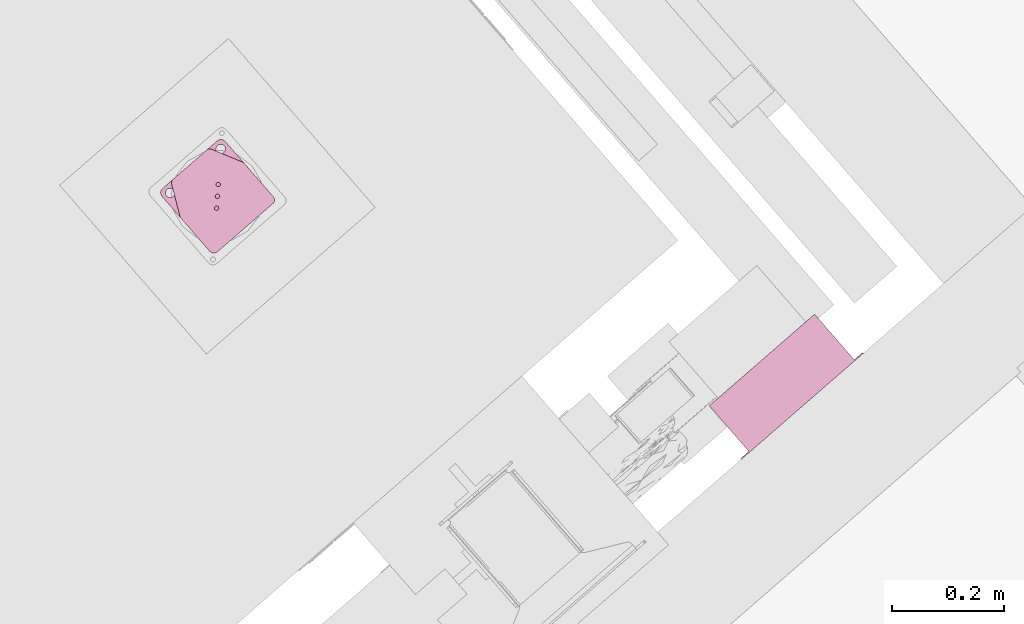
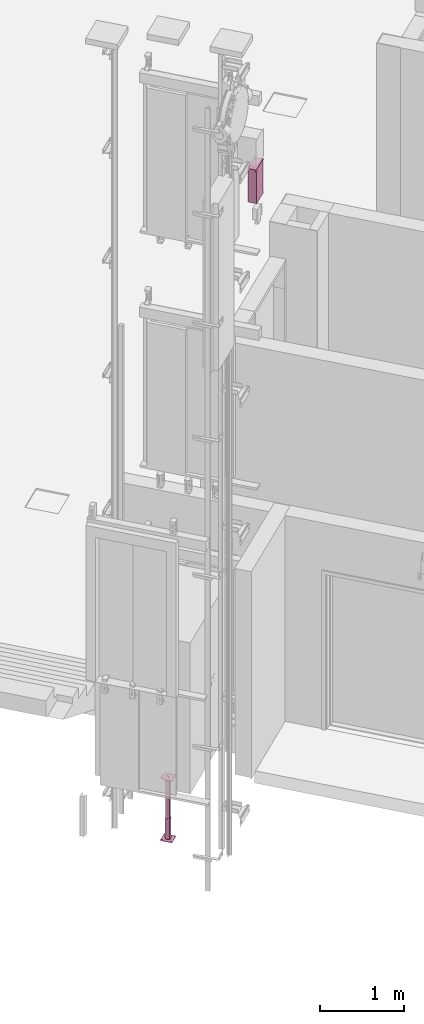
# One storey, part 123 of 124: 2 transport elements.
"""IFC2X3 building model written with IfcOpenShell, lengths in millimetres."""

import ifcopenshell
import ifcopenshell.guid

model = None  # the IFC model being written
_history = None  # IfcOwnerHistory: only IFC2X3 demands one
_inside = {}  # id of a spatial element -> (the spatial element, [elements in it])
_under = {}  # id of a project, library or spatial element -> (it, [spatial elements below it])
_declared = {}  # id of a project -> (the project, [libraries it declares])
_typed = {}  # id of a type object -> (the type object, [elements of that type])
_made_of = {}  # id of a material, layer set ... -> (it, [elements and type objects made of it])


def new_model(schema):
    """Start an empty IFC model of exactly this schema.

    Asked for "IFC4X3", IfcOpenShell would pick the latest addendum, in which some entities
    have other attributes; the version numbers below select the first issue.
    IFC2X3 requires an IfcOwnerHistory on every rooted entity: one is made here for all.
    """
    global model, _history
    if schema == "IFC4X3":
        model = ifcopenshell.file(schema_version=(4, 3, 0, 0))
    else:
        model = ifcopenshell.file(schema=schema)
    _inside.clear()
    _under.clear()
    _declared.clear()
    _typed.clear()
    _made_of.clear()
    _history = None
    if model.schema == "IFC2X3":
        org = make("IfcOrganization", Name="unknown")
        user = make(
            "IfcPersonAndOrganization",
            ThePerson=make("IfcPerson", FamilyName="unknown"),
            TheOrganization=org,
        )
        app = make(
            "IfcApplication",
            ApplicationDeveloper=org,
            Version="unknown",
            ApplicationFullName="unknown",
            ApplicationIdentifier="unknown",
        )
        _history = make(
            "IfcOwnerHistory",
            OwningUser=user,
            OwningApplication=app,
            ChangeAction="ADDED",
            CreationDate=0,
        )
    return model


def make(cls, **values):
    """One entity of the class cls with the attributes given. An attribute that is None is left unset."""
    return model.create_entity(
        cls, **{name: value for name, value in values.items() if value is not None}
    )


def entity(cls, *values):
    """Any entity or typed value of the class cls, its attributes in the order of the schema. None: left unset."""
    e = model.create_entity(cls)
    for i, value in enumerate(values):
        if value is not None:
            e[i] = value
    return e


def rooted(cls, **values):
    """An entity with a GlobalId (a new one), such as an element, a storey or a relation."""
    return make(cls, GlobalId=ifcopenshell.guid.new(), OwnerHistory=_history, **values)


def si_unit(unit_type, name, prefix=None):
    """IfcSIUnit, for example si_unit("LENGTHUNIT", "METRE", prefix="MILLI")."""
    return make("IfcSIUnit", UnitType=unit_type, Prefix=prefix, Name=name)


def converted_unit(unit_type, name, factor, base, dimensions=None, offset=None):
    """IfcConversionBasedUnit, such as the inch: factor (a typed value) times the base unit."""
    return make(
        "IfcConversionBasedUnit"
        if offset is None
        else "IfcConversionBasedUnitWithOffset",
        ConversionOffset=offset,
        Dimensions=None
        if dimensions is None
        else entity("IfcDimensionalExponents", *dimensions),
        UnitType=unit_type,
        Name=name,
        ConversionFactor=make(
            "IfcMeasureWithUnit", ValueComponent=factor, UnitComponent=base
        ),
    )


def derived_unit(unit_type, elements):
    """IfcDerivedUnit: a product of units, each with its exponent."""
    return make(
        "IfcDerivedUnit",
        Elements=[
            make("IfcDerivedUnitElement", Unit=unit, Exponent=power)
            for unit, power in elements
        ],
        UnitType=unit_type,
    )


def money_unit(currency):
    """IfcMonetaryUnit."""
    return make("IfcMonetaryUnit", Currency=currency)


def assignment(units):
    """IfcUnitAssignment: the units of a project."""
    return None if units is None else make("IfcUnitAssignment", Units=units)


def point(xyz):
    """IfcCartesianPoint."""
    return None if xyz is None else make("IfcCartesianPoint", Coordinates=xyz)


def direction(xyz):
    """IfcDirection."""
    return None if xyz is None else make("IfcDirection", DirectionRatios=xyz)


def frame(location, z_axis=None, x_axis=None):
    """IfcAxis2Placement3D, a coordinate frame: its origin and axes. An axis left out is left unset."""
    return make(
        "IfcAxis2Placement3D",
        Location=point(location),
        Axis=direction(z_axis),
        RefDirection=direction(x_axis),
    )


def origin_with_axes():
    """The frame at (0, 0, 0) with the z axis (0, 0, 1) and the x axis (1, 0, 0) written out."""
    return frame((0.0, 0.0, 0.0), z_axis=(0.0, 0.0, 1.0), x_axis=(1.0, 0.0, 0.0))


def place(relative_to, where):
    """IfcLocalPlacement: puts the frame where relative to a parent placement (None: the world)."""
    return make(
        "IfcLocalPlacement", PlacementRelTo=relative_to, RelativePlacement=where
    )


def context(
    kind, dimensions, precision=None, world=None, true_north=None, identifier=None
):
    """IfcGeometricRepresentationContext, for example the 3D "Model" context."""
    return make(
        "IfcGeometricRepresentationContext",
        ContextIdentifier=identifier,
        ContextType=kind,
        CoordinateSpaceDimension=dimensions,
        Precision=precision,
        WorldCoordinateSystem=world,
        TrueNorth=true_north,
    )


def subcontext(parent, identifier, kind, view, scale=None):
    """IfcGeometricRepresentationSubContext, for example "Body" below "Model"."""
    return make(
        "IfcGeometricRepresentationSubContext",
        ContextIdentifier=identifier,
        ContextType=kind,
        ParentContext=parent,
        TargetScale=scale,
        TargetView=view,
    )


def project(units=None, contexts=None):
    """IfcProject with its units and contexts."""
    return rooted(
        "IfcProject",
        Name="project",
        RepresentationContexts=contexts,
        UnitsInContext=assignment(units),
    )


def spatial(cls, under=None, at=None, **own):
    """A site, building, storey or space (cls), placed at a placement, below another one or the project."""
    s = rooted(cls, ObjectPlacement=at, **own)
    if under is not None:
        _under.setdefault(under.id(), (under, []))[1].append(s)
    return s


def faces_of(points, faces, orient=None, outer=None):
    """IfcFace entities. A face is a list of loops; a loop is a list of indices into points, from 0.

    orient and outer hold one flag for each loop. By default every Orientation is true, the
    first loop of a face is its IfcFaceOuterBound and the others are IfcFaceBound.
    """
    made = []
    for i, loops in enumerate(faces):
        bounds = []
        for j, loop in enumerate(loops):
            is_outer = j == 0 if outer is None else outer[i][j]
            bounds.append(
                make(
                    "IfcFaceOuterBound" if is_outer else "IfcFaceBound",
                    Bound=make("IfcPolyLoop", Polygon=[points[k] for k in loop]),
                    Orientation=True if orient is None else orient[i][j],
                )
            )
        made.append(make("IfcFace", Bounds=bounds))
    return made


def faceted_brep(points, faces, orient=None, outer=None, voids=None):
    """IfcFacetedBrep: a solid bounded by flat faces; with voids (closed shells), ...WithVoids."""
    shared = [point(p) for p in points]
    hull = make("IfcClosedShell", CfsFaces=faces_of(shared, faces, orient, outer))
    if voids is None:
        return make("IfcFacetedBrep", Outer=hull)
    return make(
        "IfcFacetedBrepWithVoids",
        Outer=hull,
        Voids=[
            make(cls, CfsFaces=faces_of(shared, fs, o, b)) for cls, fs, o, b in voids
        ],
    )


def shape(context_of_items, identifier, shape_type, items):
    """IfcShapeRepresentation: the items that make up one representation, for example the "Body"."""
    return make(
        "IfcShapeRepresentation",
        ContextOfItems=context_of_items,
        RepresentationIdentifier=identifier,
        RepresentationType=shape_type,
        Items=items,
    )


def material(Name=None, Category=None):
    """IfcMaterial."""
    return make("IfcMaterial", Name=Name, Category=Category)


def material_list(materials):
    """IfcMaterialList."""
    return make("IfcMaterialList", Materials=materials)


def made_of(thing, what):
    """Note that an element or type object is made of a material, layer set ...; save() writes the relation."""
    if what is not None:
        _made_of.setdefault(what.id(), (what, []))[1].append(thing)
    return thing


def type_object(cls, material=None, **own):
    """A type object (cls), such as IfcWallType, which elements share."""
    return made_of(rooted(cls, **own), material)


def element(
    cls,
    number,
    at=None,
    inside=None,
    cuts=None,
    type_object=None,
    material=None,
    context=None,
    identifier="Body",
    shape_type=None,
    held_by="IfcProductDefinitionShape",
    body=None,
    shapes=None,
    **own,
):
    """One element of the class cls, such as IfcWall. Its Tag is "e" and its number.

    at: its placement. inside: the storey or other place that contains it. cuts: it is an
    opening in that element (IfcRelVoidsElement). A single representation is given by context,
    identifier, shape_type and body (its items); several are given by shapes. held_by: the class
    of the entity that holds the representations. save() writes the other relations.
    """
    e = rooted(cls, Tag="e%d" % number, ObjectPlacement=at, **own)
    if body is not None:
        shapes = [shape(context, identifier, shape_type, body)]
    if shapes is not None:
        e.Representation = make(held_by, Representations=shapes)
    if inside is not None:
        _inside.setdefault(inside.id(), (inside, []))[1].append(e)
    if cuts is not None:
        rooted(
            "IfcRelVoidsElement", RelatingBuildingElement=cuts, RelatedOpeningElement=e
        )
    if type_object is not None:
        _typed.setdefault(type_object.id(), (type_object, []))[1].append(e)
    return made_of(e, material)


def aggregate(whole, parts):
    """IfcRelAggregates: a whole, such as a stair, and the parts it consists of."""
    return rooted("IfcRelAggregates", RelatingObject=whole, RelatedObjects=parts)


def save(model, path):
    """Write the relations noted so far, then the file.

    IfcRelAggregates (storeys below a building ...), IfcRelContainedInSpatialStructure (elements
    in a storey), IfcRelDefinesByType, IfcRelAssociatesMaterial and IfcRelDeclares: one each for
    every whole, place, type object, material and project.
    """
    for whole, parts in _under.values():
        aggregate(whole, parts)
    for where, things in _inside.values():
        rooted(
            "IfcRelContainedInSpatialStructure",
            RelatedElements=things,
            RelatingStructure=where,
        )
    for kind, things in _typed.values():
        rooted("IfcRelDefinesByType", RelatedObjects=things, RelatingType=kind)
    for what, things in _made_of.values():
        rooted("IfcRelAssociatesMaterial", RelatedObjects=things, RelatingMaterial=what)
    for by, libraries in _declared.values():
        rooted("IfcRelDeclares", RelatingContext=by, RelatedDefinitions=libraries)
    model.write(path)


model = new_model("IFC2X3")

# Units and contexts
model_context = context("Model", 3, precision=1e-05, world=origin_with_axes(), true_north=direction((0.0, 1.0)))
body_context = subcontext(model_context, "Body", "Model", "MODEL_VIEW")
ifc_project = project(units=[si_unit("LENGTHUNIT", "METRE", prefix="MILLI"), si_unit("AREAUNIT", "SQUARE_METRE"), si_unit("VOLUMEUNIT", "CUBIC_METRE"), converted_unit("PLANEANGLEUNIT", "DEGREE", entity("IfcPlaneAngleMeasure", 0.0174532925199), si_unit("PLANEANGLEUNIT", "RADIAN"), dimensions=[0, 0, 0, 0, 0, 0, 0]), si_unit("SOLIDANGLEUNIT", "STERADIAN"), money_unit("EUR"), converted_unit("TIMEUNIT", "Year", entity("IfcTimeMeasure", 31556926.0), si_unit("TIMEUNIT", "SECOND"), dimensions=[0, 0, 1, 0, 0, 0, 0]), si_unit("MASSUNIT", "GRAM", prefix="KILO"), si_unit("THERMODYNAMICTEMPERATUREUNIT", "DEGREE_CELSIUS"), si_unit("LUMINOUSINTENSITYUNIT", "LUMEN"), si_unit("ENERGYUNIT", "JOULE", prefix="MEGA"), derived_unit("THERMALCONDUCTANCEUNIT", [(si_unit("POWERUNIT", "WATT"), 1), (si_unit("LENGTHUNIT", "METRE"), -1), (si_unit("THERMODYNAMICTEMPERATUREUNIT", "KELVIN"), -1)]), derived_unit("SPECIFICHEATCAPACITYUNIT", [(si_unit("ENERGYUNIT", "JOULE"), 1), (si_unit("MASSUNIT", "GRAM", prefix="KILO"), -1), (si_unit("THERMODYNAMICTEMPERATUREUNIT", "KELVIN"), -1)]), derived_unit("MASSDENSITYUNIT", [(si_unit("MASSUNIT", "GRAM", prefix="KILO"), 1), (si_unit("VOLUMEUNIT", "CUBIC_METRE"), -1)])], contexts=[model_context])

# Site, building, storey
site_placement = place(None, origin_with_axes())
site = spatial("IfcSite", under=ifc_project, at=site_placement, Name="Site", CompositionType="ELEMENT")
building_placement = place(site_placement, origin_with_axes())
building = spatial("IfcBuilding", under=site, at=building_placement, Name="Building", CompositionType="ELEMENT")
storey_placement = place(building_placement, frame((0.0, 0.0, -1615.0), z_axis=(0.0, 0.0, 1.0), x_axis=(1.0, 0.0, 0.0)))
storey = spatial("IfcBuildingStorey", under=building, at=storey_placement, Name="0  korrus", CompositionType="ELEMENT", Elevation=-1615.0)

# Transport elements
ifc_material = material(Name="IFC Building Material")
ifc_material_list_1 = material_list([ifc_material, ifc_material, ifc_material, ifc_material])
transport_element_type_1 = type_object("IfcTransportElementType", Name="KONE_Buffer_Extension_Single_Pillar_KM841600_CAR:KONE_Buffer_Extension_Single_Pillar_KM841600", PredefinedType="NOTDEFINED")
transport_element_1_placement = place(storey_placement, frame((147219.057432, 78456.6594632, -1400.0), z_axis=(0.0, 0.0, 1.0), x_axis=(-0.656059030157, 0.754709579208, 0.0)))
element("IfcTransportElement", 1, at=transport_element_1_placement, inside=storey, type_object=transport_element_type_1, material=ifc_material_list_1, Name="KONE_Buffer_Extension_Single_Pillar_KM841600_CAR:KONE_Buffer_Extension_Single_Pillar_KM841600", ObjectType="KONE_Buffer_Extension_Single_Pillar_KM841600", CapacityByNumber=0.0, CapacityByWeight=0.0, OperationType="ELEVATOR", context=body_context, shape_type="Brep", body=[
    faceted_brep([(91.5952722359, 151.595272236, 892.0), (11.5952722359, 151.595272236, 892.0), (11.5952722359, 151.595272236, 897.0), (91.5952722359, 151.595272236, 897.0), (147.172981, 123.806417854, 892.0), (149.513263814, 122.034064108, 892.0), (151.056637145, 119.5368336, 892.0), (151.595272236, 116.651000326, 892.0), (151.595272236, 36.5395441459, 892.0), (151.056637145, 33.6537108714, 892.0), (149.513263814, 31.1564803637, 892.0), (147.172981, 29.3841266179, 892.0), (91.5952722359, 1.59527223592, 892.0), (9.59527223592, 1.59527223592, 892.0), (6.533804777, 2.20423597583, 892.0), (3.93841798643, 3.93841798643, 892.0), (2.20423597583, 6.533804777, 892.0), (1.59527223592, 9.59527223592, 892.0), (1.59527223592, 141.595272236, 892.0), (2.35647691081, 145.42210656, 892.0), (4.52420442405, 148.666340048, 892.0), (7.76843791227, 150.834067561, 892.0), (65.5952722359, 91.5952722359, 892.0), (65.290790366, 93.1260059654, 892.0), (64.4236993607, 94.4236993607, 892.0), (63.1260059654, 95.290790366, 892.0), (61.5952722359, 95.5952722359, 892.0), (60.0645385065, 95.290790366, 892.0), (58.7668451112, 94.4236993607, 892.0), (57.8997541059, 93.1260059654, 892.0), (57.5952722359, 91.5952722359, 892.0), (57.8997541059, 90.0645385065, 892.0), (58.7668451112, 88.7668451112, 892.0), (60.0645385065, 87.8997541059, 892.0), (61.5952722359, 87.5952722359, 892.0), (63.1260059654, 87.8997541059, 892.0), (64.4236993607, 88.7668451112, 892.0), (65.290790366, 90.0645385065, 892.0), (80.5952722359, 76.5952722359, 892.0), (80.290790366, 78.1260059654, 892.0), (79.4236993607, 79.4236993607, 892.0), (78.1260059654, 80.290790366, 892.0), (76.5952722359, 80.5952722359, 892.0), (75.0645385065, 80.290790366, 892.0), (73.7668451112, 79.4236993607, 892.0), (72.8997541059, 78.1260059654, 892.0), (72.5952722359, 76.5952722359, 892.0), (72.8997541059, 75.0645385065, 892.0), (73.7668451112, 73.7668451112, 892.0), (75.0645385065, 72.8997541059, 892.0), (76.5952722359, 72.5952722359, 892.0), (78.1260059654, 72.8997541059, 892.0), (79.4236993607, 73.7668451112, 892.0), (80.290790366, 75.0645385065, 892.0), (95.5952722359, 61.5952722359, 892.0), (95.290790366, 63.1260059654, 892.0), (94.4236993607, 64.4236993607, 892.0), (93.1260059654, 65.290790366, 892.0), (91.5952722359, 65.5952722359, 892.0), (90.0645385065, 65.290790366, 892.0), (88.7668451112, 64.4236993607, 892.0), (87.8997541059, 63.1260059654, 892.0), (87.5952722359, 61.5952722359, 892.0), (87.8997541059, 60.0645385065, 892.0), (88.7668451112, 58.7668451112, 892.0), (90.0645385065, 57.8997541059, 892.0), (91.5952722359, 57.5952722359, 892.0), (93.1260059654, 57.8997541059, 892.0), (94.4236993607, 58.7668451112, 892.0), (95.290790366, 60.0645385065, 892.0), (7.76843791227, 150.834067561, 897.0), (4.52420442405, 148.666340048, 897.0), (2.35647691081, 145.42210656, 897.0), (1.59527223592, 141.595272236, 897.0), (1.59527223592, 9.59527223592, 897.0), (2.20423597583, 6.533804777, 897.0), (3.93841798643, 3.93841798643, 897.0), (6.533804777, 2.20423597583, 897.0), (9.59527223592, 1.59527223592, 897.0), (91.5952722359, 1.59527223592, 897.0), (147.172981, 29.3841266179, 897.0), (149.513263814, 31.1564803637, 897.0), (151.056637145, 33.6537108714, 897.0), (151.595272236, 36.5395441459, 897.0), (151.595272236, 116.651000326, 897.0), (151.056637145, 119.5368336, 897.0), (149.513263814, 122.034064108, 897.0), (147.172981, 123.806417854, 897.0), (65.5952722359, 91.5952722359, 897.0), (65.290790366, 90.0645385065, 897.0), (64.4236993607, 88.7668451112, 897.0), (63.1260059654, 87.8997541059, 897.0), (61.5952722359, 87.5952722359, 897.0), (60.0645385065, 87.8997541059, 897.0), (58.7668451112, 88.7668451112, 897.0), (57.8997541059, 90.0645385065, 897.0), (57.5952722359, 91.5952722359, 897.0), (57.8997541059, 93.1260059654, 897.0), (58.7668451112, 94.4236993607, 897.0), (60.0645385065, 95.290790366, 897.0), (61.5952722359, 95.5952722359, 897.0), (63.1260059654, 95.290790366, 897.0), (64.4236993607, 94.4236993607, 897.0), (65.290790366, 93.1260059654, 897.0), (80.5952722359, 76.5952722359, 897.0), (80.290790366, 75.0645385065, 897.0), (79.4236993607, 73.7668451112, 897.0), (78.1260059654, 72.8997541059, 897.0), (76.5952722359, 72.5952722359, 897.0), (75.0645385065, 72.8997541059, 897.0), (73.7668451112, 73.7668451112, 897.0), (72.8997541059, 75.0645385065, 897.0), (72.5952722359, 76.5952722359, 897.0), (72.8997541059, 78.1260059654, 897.0), (73.7668451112, 79.4236993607, 897.0), (75.0645385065, 80.290790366, 897.0), (76.5952722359, 80.5952722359, 897.0), (78.1260059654, 80.290790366, 897.0), (79.4236993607, 79.4236993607, 897.0), (80.290790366, 78.1260059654, 897.0), (95.5952722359, 61.5952722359, 897.0), (95.290790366, 60.0645385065, 897.0), (94.4236993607, 58.7668451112, 897.0), (93.1260059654, 57.8997541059, 897.0), (91.5952722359, 57.5952722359, 897.0), (90.0645385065, 57.8997541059, 897.0), (88.7668451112, 58.7668451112, 897.0), (87.8997541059, 60.0645385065, 897.0), (87.5952722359, 61.5952722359, 897.0), (87.8997541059, 63.1260059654, 897.0), (88.7668451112, 64.4236993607, 897.0), (90.0645385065, 65.290790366, 897.0), (91.5952722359, 65.5952722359, 897.0), (93.1260059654, 65.290790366, 897.0), (94.4236993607, 64.4236993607, 897.0), (95.290790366, 63.1260059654, 897.0)], [[[0, 1, 2, 3]], [[0, 4, 5, 6, 7, 8, 9, 10, 11, 12, 13, 14, 15, 16, 17, 18, 19, 20, 21, 1], [22, 23, 24, 25, 26, 27, 28, 29, 30, 31, 32, 33, 34, 35, 36, 37], [38, 39, 40, 41, 42, 43, 44, 45, 46, 47, 48, 49, 50, 51, 52, 53], [54, 55, 56, 57, 58, 59, 60, 61, 62, 63, 64, 65, 66, 67, 68, 69]], [[1, 21, 70, 2]], [[3, 2, 70, 71, 72, 73, 74, 75, 76, 77, 78, 79, 80, 81, 82, 83, 84, 85, 86, 87], [88, 89, 90, 91, 92, 93, 94, 95, 96, 97, 98, 99, 100, 101, 102, 103], [104, 105, 106, 107, 108, 109, 110, 111, 112, 113, 114, 115, 116, 117, 118, 119], [120, 121, 122, 123, 124, 125, 126, 127, 128, 129, 130, 131, 132, 133, 134, 135]], [[4, 0, 3, 87]], [[5, 4, 87, 86]], [[6, 5, 86, 85]], [[7, 6, 85, 84]], [[8, 7, 84, 83]], [[9, 8, 83, 82]], [[10, 9, 82, 81]], [[11, 10, 81, 80]], [[12, 11, 80, 79]], [[13, 12, 79, 78]], [[14, 13, 78, 77]], [[15, 14, 77, 76]], [[16, 15, 76, 75]], [[17, 16, 75, 74]], [[18, 17, 74, 73]], [[19, 18, 73, 72]], [[20, 19, 72, 71]], [[21, 20, 71, 70]], [[23, 22, 88, 103]], [[24, 23, 103, 102]], [[25, 24, 102, 101]], [[26, 25, 101, 100]], [[27, 26, 100, 99]], [[28, 27, 99, 98]], [[29, 28, 98, 97]], [[30, 29, 97, 96]], [[31, 30, 96, 95]], [[32, 31, 95, 94]], [[33, 32, 94, 93]], [[34, 33, 93, 92]], [[35, 34, 92, 91]], [[36, 35, 91, 90]], [[37, 36, 90, 89]], [[22, 37, 89, 88]], [[39, 38, 104, 119]], [[40, 39, 119, 118]], [[41, 40, 118, 117]], [[42, 41, 117, 116]], [[43, 42, 116, 115]], [[44, 43, 115, 114]], [[45, 44, 114, 113]], [[46, 45, 113, 112]], [[47, 46, 112, 111]], [[48, 47, 111, 110]], [[49, 48, 110, 109]], [[50, 49, 109, 108]], [[51, 50, 108, 107]], [[52, 51, 107, 106]], [[53, 52, 106, 105]], [[38, 53, 105, 104]], [[55, 54, 120, 135]], [[56, 55, 135, 134]], [[57, 56, 134, 133]], [[58, 57, 133, 132]], [[59, 58, 132, 131]], [[60, 59, 131, 130]], [[61, 60, 130, 129]], [[62, 61, 129, 128]], [[63, 62, 128, 127]], [[64, 63, 127, 126]], [[65, 64, 126, 125]], [[66, 65, 125, 124]], [[67, 66, 124, 123]], [[68, 67, 123, 122]], [[69, 68, 122, 121]], [[54, 69, 121, 120]]]),
    faceted_brep([(99.5952722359, 101.595272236, 305.0), (53.5952722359, 101.595272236, 305.0), (53.5952722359, 101.595272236, 892.0), (99.5952722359, 101.595272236, 892.0), (100.360639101, 101.443031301, 305.0), (101.009485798, 101.009485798, 305.0), (101.443031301, 100.360639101, 305.0), (101.595272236, 99.5952722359, 305.0), (101.595272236, 53.5952722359, 305.0), (101.443031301, 52.8299053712, 305.0), (101.009485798, 52.1810586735, 305.0), (100.360639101, 51.7475131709, 305.0), (99.5952722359, 51.5952722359, 305.0), (53.5952722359, 51.5952722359, 305.0), (52.8299053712, 51.7475131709, 305.0), (52.1810586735, 52.1810586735, 305.0), (51.7475131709, 52.8299053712, 305.0), (51.5952722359, 53.5952722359, 305.0), (51.5952722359, 99.5952722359, 305.0), (51.7475131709, 100.360639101, 305.0), (52.1810586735, 101.009485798, 305.0), (52.8299053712, 101.443031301, 305.0), (95.5952722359, 97.5952722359, 305.0), (57.5952722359, 97.5952722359, 305.0), (56.8299053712, 97.4430313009, 305.0), (56.1810586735, 97.0094857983, 305.0), (55.7475131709, 96.3606391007, 305.0), (55.5952722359, 95.5952722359, 305.0), (55.5952722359, 57.5952722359, 305.0), (55.7475131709, 56.8299053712, 305.0), (56.1810586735, 56.1810586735, 305.0), (56.8299053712, 55.7475131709, 305.0), (57.5952722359, 55.5952722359, 305.0), (95.5952722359, 55.5952722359, 305.0), (96.3606391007, 55.7475131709, 305.0), (97.0094857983, 56.1810586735, 305.0), (97.4430313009, 56.8299053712, 305.0), (97.5952722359, 57.5952722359, 305.0), (97.5952722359, 95.5952722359, 305.0), (97.4430313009, 96.3606391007, 305.0), (97.0094857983, 97.0094857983, 305.0), (96.3606391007, 97.4430313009, 305.0), (52.8299053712, 101.443031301, 892.0), (52.1810586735, 101.009485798, 892.0), (51.7475131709, 100.360639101, 892.0), (51.5952722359, 99.5952722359, 892.0), (51.5952722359, 53.5952722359, 892.0), (51.7475131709, 52.8299053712, 892.0), (52.1810586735, 52.1810586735, 892.0), (52.8299053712, 51.7475131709, 892.0), (53.5952722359, 51.5952722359, 892.0), (99.5952722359, 51.5952722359, 892.0), (100.360639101, 51.7475131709, 892.0), (101.009485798, 52.1810586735, 892.0), (101.443031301, 52.8299053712, 892.0), (101.595272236, 53.5952722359, 892.0), (101.595272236, 99.5952722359, 892.0), (101.443031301, 100.360639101, 892.0), (101.009485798, 101.009485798, 892.0), (100.360639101, 101.443031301, 892.0), (95.5952722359, 97.5952722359, 892.0), (96.3606391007, 97.4430313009, 892.0), (97.0094857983, 97.0094857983, 892.0), (97.4430313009, 96.3606391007, 892.0), (97.5952722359, 95.5952722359, 892.0), (97.5952722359, 57.5952722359, 892.0), (97.4430313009, 56.8299053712, 892.0), (97.0094857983, 56.1810586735, 892.0), (96.3606391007, 55.7475131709, 892.0), (95.5952722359, 55.5952722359, 892.0), (57.5952722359, 55.5952722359, 892.0), (56.8299053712, 55.7475131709, 892.0), (56.1810586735, 56.1810586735, 892.0), (55.7475131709, 56.8299053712, 892.0), (55.5952722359, 57.5952722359, 892.0), (55.5952722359, 95.5952722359, 892.0), (55.7475131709, 96.3606391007, 892.0), (56.1810586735, 97.0094857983, 892.0), (56.8299053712, 97.4430313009, 892.0), (57.5952722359, 97.5952722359, 892.0)], [[[0, 1, 2, 3]], [[0, 4, 5, 6, 7, 8, 9, 10, 11, 12, 13, 14, 15, 16, 17, 18, 19, 20, 21, 1], [22, 23, 24, 25, 26, 27, 28, 29, 30, 31, 32, 33, 34, 35, 36, 37, 38, 39, 40, 41]], [[1, 21, 42, 2]], [[3, 2, 42, 43, 44, 45, 46, 47, 48, 49, 50, 51, 52, 53, 54, 55, 56, 57, 58, 59], [60, 61, 62, 63, 64, 65, 66, 67, 68, 69, 70, 71, 72, 73, 74, 75, 76, 77, 78, 79]], [[4, 0, 3, 59]], [[5, 4, 59, 58]], [[6, 5, 58, 57]], [[7, 6, 57, 56]], [[8, 7, 56, 55]], [[9, 8, 55, 54]], [[10, 9, 54, 53]], [[11, 10, 53, 52]], [[12, 11, 52, 51]], [[13, 12, 51, 50]], [[14, 13, 50, 49]], [[15, 14, 49, 48]], [[16, 15, 48, 47]], [[17, 16, 47, 46]], [[18, 17, 46, 45]], [[19, 18, 45, 44]], [[20, 19, 44, 43]], [[21, 20, 43, 42]], [[23, 22, 60, 79]], [[24, 23, 79, 78]], [[25, 24, 78, 77]], [[26, 25, 77, 76]], [[27, 26, 76, 75]], [[28, 27, 75, 74]], [[29, 28, 74, 73]], [[30, 29, 73, 72]], [[31, 30, 72, 71]], [[32, 31, 71, 70]], [[33, 32, 70, 69]], [[34, 33, 69, 68]], [[35, 34, 68, 67]], [[36, 35, 67, 66]], [[37, 36, 66, 65]], [[38, 37, 65, 64]], [[39, 38, 64, 63]], [[40, 39, 63, 62]], [[41, 40, 62, 61]], [[22, 41, 61, 60]]]),
    faceted_brep([(101.595272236, 106.595272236, 5.0), (51.5952722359, 106.595272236, 5.0), (51.5952722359, 106.595272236, 305.0), (101.595272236, 106.595272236, 305.0), (103.508689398, 106.214669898, 5.0), (105.130806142, 105.130806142, 5.0), (106.214669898, 103.508689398, 5.0), (106.595272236, 101.595272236, 5.0), (106.595272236, 51.5952722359, 5.0), (106.214669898, 49.6818550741, 5.0), (105.130806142, 48.05973833, 5.0), (103.508689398, 46.9758745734, 5.0), (101.595272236, 46.5952722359, 5.0), (51.5952722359, 46.5952722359, 5.0), (49.6818550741, 46.9758745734, 5.0), (48.05973833, 48.05973833, 5.0), (46.9758745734, 49.6818550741, 5.0), (46.5952722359, 51.5952722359, 5.0), (46.5952722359, 101.595272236, 5.0), (46.9758745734, 103.508689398, 5.0), (48.05973833, 105.130806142, 5.0), (49.6818550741, 106.214669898, 5.0), (97.5952722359, 102.595272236, 5.0), (55.5952722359, 102.595272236, 5.0), (53.6818550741, 102.214669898, 5.0), (52.05973833, 101.130806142, 5.0), (50.9758745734, 99.5086893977, 5.0), (50.5952722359, 97.5952722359, 5.0), (50.5952722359, 55.5952722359, 5.0), (50.9758745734, 53.6818550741, 5.0), (52.05973833, 52.05973833, 5.0), (53.6818550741, 50.9758745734, 5.0), (55.5952722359, 50.5952722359, 5.0), (97.5952722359, 50.5952722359, 5.0), (99.5086893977, 50.9758745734, 5.0), (101.130806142, 52.05973833, 5.0), (102.214669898, 53.6818550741, 5.0), (102.595272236, 55.5952722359, 5.0), (102.595272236, 97.5952722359, 5.0), (102.214669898, 99.5086893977, 5.0), (101.130806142, 101.130806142, 5.0), (99.5086893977, 102.214669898, 5.0), (49.6818550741, 106.214669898, 305.0), (48.05973833, 105.130806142, 305.0), (46.9758745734, 103.508689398, 305.0), (46.5952722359, 101.595272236, 305.0), (46.5952722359, 51.5952722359, 305.0), (46.9758745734, 49.6818550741, 305.0), (48.05973833, 48.05973833, 305.0), (49.6818550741, 46.9758745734, 305.0), (51.5952722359, 46.5952722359, 305.0), (101.595272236, 46.5952722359, 305.0), (103.508689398, 46.9758745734, 305.0), (105.130806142, 48.05973833, 305.0), (106.214669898, 49.6818550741, 305.0), (106.595272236, 51.5952722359, 305.0), (106.595272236, 101.595272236, 305.0), (106.214669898, 103.508689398, 305.0), (105.130806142, 105.130806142, 305.0), (103.508689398, 106.214669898, 305.0), (97.5952722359, 102.595272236, 305.0), (99.5086893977, 102.214669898, 305.0), (101.130806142, 101.130806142, 305.0), (102.214669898, 99.5086893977, 305.0), (102.595272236, 97.5952722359, 305.0), (102.595272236, 55.5952722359, 305.0), (102.214669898, 53.6818550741, 305.0), (101.130806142, 52.05973833, 305.0), (99.5086893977, 50.9758745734, 305.0), (97.5952722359, 50.5952722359, 305.0), (55.5952722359, 50.5952722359, 305.0), (53.6818550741, 50.9758745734, 305.0), (52.05973833, 52.05973833, 305.0), (50.9758745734, 53.6818550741, 305.0), (50.5952722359, 55.5952722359, 305.0), (50.5952722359, 97.5952722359, 305.0), (50.9758745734, 99.5086893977, 305.0), (52.05973833, 101.130806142, 305.0), (53.6818550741, 102.214669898, 305.0), (55.5952722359, 102.595272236, 305.0)], [[[0, 1, 2, 3]], [[0, 4, 5, 6, 7, 8, 9, 10, 11, 12, 13, 14, 15, 16, 17, 18, 19, 20, 21, 1], [22, 23, 24, 25, 26, 27, 28, 29, 30, 31, 32, 33, 34, 35, 36, 37, 38, 39, 40, 41]], [[1, 21, 42, 2]], [[3, 2, 42, 43, 44, 45, 46, 47, 48, 49, 50, 51, 52, 53, 54, 55, 56, 57, 58, 59], [60, 61, 62, 63, 64, 65, 66, 67, 68, 69, 70, 71, 72, 73, 74, 75, 76, 77, 78, 79]], [[4, 0, 3, 59]], [[5, 4, 59, 58]], [[6, 5, 58, 57]], [[7, 6, 57, 56]], [[8, 7, 56, 55]], [[9, 8, 55, 54]], [[10, 9, 54, 53]], [[11, 10, 53, 52]], [[12, 11, 52, 51]], [[13, 12, 51, 50]], [[14, 13, 50, 49]], [[15, 14, 49, 48]], [[16, 15, 48, 47]], [[17, 16, 47, 46]], [[18, 17, 46, 45]], [[19, 18, 45, 44]], [[20, 19, 44, 43]], [[21, 20, 43, 42]], [[23, 22, 60, 79]], [[24, 23, 79, 78]], [[25, 24, 78, 77]], [[26, 25, 77, 76]], [[27, 26, 76, 75]], [[28, 27, 75, 74]], [[29, 28, 74, 73]], [[30, 29, 73, 72]], [[31, 30, 72, 71]], [[32, 31, 71, 70]], [[33, 32, 70, 69]], [[34, 33, 69, 68]], [[35, 34, 68, 67]], [[36, 35, 67, 66]], [[37, 36, 66, 65]], [[38, 37, 65, 64]], [[39, 38, 64, 63]], [[40, 39, 63, 62]], [[41, 40, 62, 61]], [[22, 41, 61, 60]]]),
    faceted_brep([(141.595272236, 151.595272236, 0.0), (11.5952722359, 151.595272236, 0.0), (11.5952722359, 151.595272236, 5.0), (141.595272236, 151.595272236, 5.0), (145.42210656, 150.834067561, 0.0), (148.666340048, 148.666340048, 0.0), (150.834067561, 145.42210656, 0.0), (151.595272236, 141.595272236, 0.0), (151.595272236, 11.5952722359, 0.0), (150.834067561, 7.76843791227, 0.0), (148.666340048, 4.52420442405, 0.0), (145.42210656, 2.35647691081, 0.0), (141.595272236, 1.59527223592, 0.0), (11.5952722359, 1.59527223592, 0.0), (7.76843791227, 2.35647691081, 0.0), (4.52420442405, 4.52420442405, 0.0), (2.35647691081, 7.76843791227, 0.0), (1.59527223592, 11.5952722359, 0.0), (1.59527223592, 141.595272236, 0.0), (2.35647691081, 145.42210656, 0.0), (4.52420442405, 148.666340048, 0.0), (7.76843791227, 150.834067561, 0.0), (25.0952722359, 16.5952722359, 0.0), (24.4482482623, 19.848081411, 0.0), (22.605679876, 22.605679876, 0.0), (19.848081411, 24.4482482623, 0.0), (16.5952722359, 25.0952722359, 0.0), (13.3424630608, 24.4482482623, 0.0), (10.5848645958, 22.605679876, 0.0), (8.74229620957, 19.848081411, 0.0), (8.09527223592, 16.5952722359, 0.0), (8.74229620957, 13.3424630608, 0.0), (10.5848645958, 10.5848645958, 0.0), (13.3424630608, 8.74229620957, 0.0), (16.5952722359, 8.09527223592, 0.0), (19.848081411, 8.74229620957, 0.0), (22.605679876, 10.5848645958, 0.0), (24.4482482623, 13.3424630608, 0.0), (145.095272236, 16.5952722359, 0.0), (144.448248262, 19.848081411, 0.0), (142.605679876, 22.605679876, 0.0), (139.848081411, 24.4482482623, 0.0), (136.595272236, 25.0952722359, 0.0), (133.342463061, 24.4482482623, 0.0), (130.584864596, 22.605679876, 0.0), (128.74229621, 19.848081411, 0.0), (128.095272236, 16.5952722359, 0.0), (128.74229621, 13.3424630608, 0.0), (130.584864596, 10.5848645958, 0.0), (133.342463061, 8.74229620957, 0.0), (136.595272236, 8.09527223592, 0.0), (139.848081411, 8.74229620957, 0.0), (142.605679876, 10.5848645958, 0.0), (144.448248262, 13.3424630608, 0.0), (145.095272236, 136.595272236, 0.0), (144.448248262, 139.848081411, 0.0), (142.605679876, 142.605679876, 0.0), (139.848081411, 144.448248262, 0.0), (136.595272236, 145.095272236, 0.0), (133.342463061, 144.448248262, 0.0), (130.584864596, 142.605679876, 0.0), (128.74229621, 139.848081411, 0.0), (128.095272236, 136.595272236, 0.0), (128.74229621, 133.342463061, 0.0), (130.584864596, 130.584864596, 0.0), (133.342463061, 128.74229621, 0.0), (136.595272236, 128.095272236, 0.0), (139.848081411, 128.74229621, 0.0), (142.605679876, 130.584864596, 0.0), (144.448248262, 133.342463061, 0.0), (25.0952722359, 136.595272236, 0.0), (24.4482482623, 139.848081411, 0.0), (22.605679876, 142.605679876, 0.0), (19.848081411, 144.448248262, 0.0), (16.5952722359, 145.095272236, 0.0), (13.3424630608, 144.448248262, 0.0), (10.5848645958, 142.605679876, 0.0), (8.74229620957, 139.848081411, 0.0), (8.09527223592, 136.595272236, 0.0), (8.74229620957, 133.342463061, 0.0), (10.5848645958, 130.584864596, 0.0), (13.3424630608, 128.74229621, 0.0), (16.5952722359, 128.095272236, 0.0), (19.848081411, 128.74229621, 0.0), (22.605679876, 130.584864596, 0.0), (24.4482482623, 133.342463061, 0.0), (7.76843791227, 150.834067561, 5.0), (4.52420442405, 148.666340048, 5.0), (2.35647691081, 145.42210656, 5.0), (1.59527223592, 141.595272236, 5.0), (1.59527223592, 11.5952722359, 5.0), (2.35647691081, 7.76843791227, 5.0), (4.52420442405, 4.52420442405, 5.0), (7.76843791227, 2.35647691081, 5.0), (11.5952722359, 1.59527223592, 5.0), (141.595272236, 1.59527223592, 5.0), (145.42210656, 2.35647691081, 5.0), (148.666340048, 4.52420442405, 5.0), (150.834067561, 7.76843791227, 5.0), (151.595272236, 11.5952722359, 5.0), (151.595272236, 141.595272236, 5.0), (150.834067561, 145.42210656, 5.0), (148.666340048, 148.666340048, 5.0), (145.42210656, 150.834067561, 5.0), (25.0952722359, 16.5952722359, 5.0), (24.4482482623, 13.3424630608, 5.0), (22.605679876, 10.5848645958, 5.0), (19.848081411, 8.74229620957, 5.0), (16.5952722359, 8.09527223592, 5.0), (13.3424630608, 8.74229620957, 5.0), (10.5848645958, 10.5848645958, 5.0), (8.74229620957, 13.3424630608, 5.0), (8.09527223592, 16.5952722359, 5.0), (8.74229620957, 19.848081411, 5.0), (10.5848645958, 22.605679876, 5.0), (13.3424630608, 24.4482482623, 5.0), (16.5952722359, 25.0952722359, 5.0), (19.848081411, 24.4482482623, 5.0), (22.605679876, 22.605679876, 5.0), (24.4482482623, 19.848081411, 5.0), (145.095272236, 16.5952722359, 5.0), (144.448248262, 13.3424630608, 5.0), (142.605679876, 10.5848645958, 5.0), (139.848081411, 8.74229620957, 5.0), (136.595272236, 8.09527223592, 5.0), (133.342463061, 8.74229620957, 5.0), (130.584864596, 10.5848645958, 5.0), (128.74229621, 13.3424630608, 5.0), (128.095272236, 16.5952722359, 5.0), (128.74229621, 19.848081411, 5.0), (130.584864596, 22.605679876, 5.0), (133.342463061, 24.4482482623, 5.0), (136.595272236, 25.0952722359, 5.0), (139.848081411, 24.4482482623, 5.0), (142.605679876, 22.605679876, 5.0), (144.448248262, 19.848081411, 5.0), (145.095272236, 136.595272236, 5.0), (144.448248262, 133.342463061, 5.0), (142.605679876, 130.584864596, 5.0), (139.848081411, 128.74229621, 5.0), (136.595272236, 128.095272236, 5.0), (133.342463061, 128.74229621, 5.0), (130.584864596, 130.584864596, 5.0), (128.74229621, 133.342463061, 5.0), (128.095272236, 136.595272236, 5.0), (128.74229621, 139.848081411, 5.0), (130.584864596, 142.605679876, 5.0), (133.342463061, 144.448248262, 5.0), (136.595272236, 145.095272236, 5.0), (139.848081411, 144.448248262, 5.0), (142.605679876, 142.605679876, 5.0), (144.448248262, 139.848081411, 5.0), (25.0952722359, 136.595272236, 5.0), (24.4482482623, 133.342463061, 5.0), (22.605679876, 130.584864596, 5.0), (19.848081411, 128.74229621, 5.0), (16.5952722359, 128.095272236, 5.0), (13.3424630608, 128.74229621, 5.0), (10.5848645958, 130.584864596, 5.0), (8.74229620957, 133.342463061, 5.0), (8.09527223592, 136.595272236, 5.0), (8.74229620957, 139.848081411, 5.0), (10.5848645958, 142.605679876, 5.0), (13.3424630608, 144.448248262, 5.0), (16.5952722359, 145.095272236, 5.0), (19.848081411, 144.448248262, 5.0), (22.605679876, 142.605679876, 5.0), (24.4482482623, 139.848081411, 5.0)], [[[0, 1, 2, 3]], [[0, 4, 5, 6, 7, 8, 9, 10, 11, 12, 13, 14, 15, 16, 17, 18, 19, 20, 21, 1], [22, 23, 24, 25, 26, 27, 28, 29, 30, 31, 32, 33, 34, 35, 36, 37], [38, 39, 40, 41, 42, 43, 44, 45, 46, 47, 48, 49, 50, 51, 52, 53], [54, 55, 56, 57, 58, 59, 60, 61, 62, 63, 64, 65, 66, 67, 68, 69], [70, 71, 72, 73, 74, 75, 76, 77, 78, 79, 80, 81, 82, 83, 84, 85]], [[1, 21, 86, 2]], [[3, 2, 86, 87, 88, 89, 90, 91, 92, 93, 94, 95, 96, 97, 98, 99, 100, 101, 102, 103], [104, 105, 106, 107, 108, 109, 110, 111, 112, 113, 114, 115, 116, 117, 118, 119], [120, 121, 122, 123, 124, 125, 126, 127, 128, 129, 130, 131, 132, 133, 134, 135], [136, 137, 138, 139, 140, 141, 142, 143, 144, 145, 146, 147, 148, 149, 150, 151], [152, 153, 154, 155, 156, 157, 158, 159, 160, 161, 162, 163, 164, 165, 166, 167]], [[4, 0, 3, 103]], [[5, 4, 103, 102]], [[6, 5, 102, 101]], [[7, 6, 101, 100]], [[8, 7, 100, 99]], [[9, 8, 99, 98]], [[10, 9, 98, 97]], [[11, 10, 97, 96]], [[12, 11, 96, 95]], [[13, 12, 95, 94]], [[14, 13, 94, 93]], [[15, 14, 93, 92]], [[16, 15, 92, 91]], [[17, 16, 91, 90]], [[18, 17, 90, 89]], [[19, 18, 89, 88]], [[20, 19, 88, 87]], [[21, 20, 87, 86]], [[23, 22, 104, 119]], [[24, 23, 119, 118]], [[25, 24, 118, 117]], [[26, 25, 117, 116]], [[27, 26, 116, 115]], [[28, 27, 115, 114]], [[29, 28, 114, 113]], [[30, 29, 113, 112]], [[31, 30, 112, 111]], [[32, 31, 111, 110]], [[33, 32, 110, 109]], [[34, 33, 109, 108]], [[35, 34, 108, 107]], [[36, 35, 107, 106]], [[37, 36, 106, 105]], [[22, 37, 105, 104]], [[39, 38, 120, 135]], [[40, 39, 135, 134]], [[41, 40, 134, 133]], [[42, 41, 133, 132]], [[43, 42, 132, 131]], [[44, 43, 131, 130]], [[45, 44, 130, 129]], [[46, 45, 129, 128]], [[47, 46, 128, 127]], [[48, 47, 127, 126]], [[49, 48, 126, 125]], [[50, 49, 125, 124]], [[51, 50, 124, 123]], [[52, 51, 123, 122]], [[53, 52, 122, 121]], [[38, 53, 121, 120]], [[55, 54, 136, 151]], [[56, 55, 151, 150]], [[57, 56, 150, 149]], [[58, 57, 149, 148]], [[59, 58, 148, 147]], [[60, 59, 147, 146]], [[61, 60, 146, 145]], [[62, 61, 145, 144]], [[63, 62, 144, 143]], [[64, 63, 143, 142]], [[65, 64, 142, 141]], [[66, 65, 141, 140]], [[67, 66, 140, 139]], [[68, 67, 139, 138]], [[69, 68, 138, 137]], [[54, 69, 137, 136]], [[71, 70, 152, 167]], [[72, 71, 167, 166]], [[73, 72, 166, 165]], [[74, 73, 165, 164]], [[75, 74, 164, 163]], [[76, 75, 163, 162]], [[77, 76, 162, 161]], [[78, 77, 161, 160]], [[79, 78, 160, 159]], [[80, 79, 159, 158]], [[81, 80, 158, 157]], [[82, 81, 157, 156]], [[83, 82, 156, 155]], [[84, 83, 155, 154]], [[85, 84, 154, 153]], [[70, 85, 153, 152]]]),
])
ifc_material_list_2 = material_list([ifc_material, ifc_material, ifc_material])
transport_element_type_2 = type_object("IfcTransportElementType", Name="KONE_RBO_KM51147334_Without_Bracket:KONE_RBO_KM51147334_Without_Bracket", PredefinedType="NOTDEFINED")
transport_element_2_placement = place(storey_placement, frame((148157.183787, 78088.3873904, 8268.0), z_axis=(0.0, 0.0, 1.0), x_axis=(-0.754709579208, -0.656059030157, 0.0)))
element("IfcTransportElement", 2, at=transport_element_2_placement, inside=storey, type_object=transport_element_type_2, material=ifc_material_list_2, Name="KONE_RBO_KM51147334_Without_Bracket:KONE_RBO_KM51147334_Without_Bracket", ObjectType="KONE_RBO_KM51147334_Without_Bracket", CapacityByNumber=0.0, CapacityByWeight=0.0, OperationType="ELEVATOR", context=body_context, shape_type="Brep", body=[
    faceted_brep([(-119.0, -108.0, -478.0), (-119.0, -2.0, -478.0), (-117.0, -2.0, -478.0), (-117.0, -106.0, -478.0), (117.0, -106.0, -478.0), (117.0, -2.0, -478.0), (119.0, -2.0, -478.0), (119.0, -108.0, -478.0), (-119.0, -108.0, 11.0), (-119.0, -2.0, 11.0), (-117.0, -2.0, 11.0), (-117.0, -106.0, 11.0), (117.0, -106.0, 11.0), (117.0, -2.0, 11.0), (119.0, -2.0, 11.0), (119.0, -108.0, 11.0)], [[[0, 1, 2, 3, 4, 5, 6, 7]], [[1, 0, 8, 9]], [[2, 1, 9, 10]], [[3, 2, 10, 11]], [[4, 3, 11, 12]], [[5, 4, 12, 13]], [[6, 5, 13, 14]], [[7, 6, 14, 15]], [[0, 7, 15, 8]], [[8, 15, 14, 13, 12, 11, 10, 9]]]),
    faceted_brep([(-118.0, -2.0, -9.0), (-132.011794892, -2.0, -9.0), (-132.011794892, 0.0, -9.0), (-118.0, 0.0, -9.0), (145.0, -2.0, 11.0), (-145.0, -2.0, 11.0), (-145.0, -2.0, -9.0), (-138.0, -2.0, -9.0), (-138.0, -2.0, 0.0), (-135.005897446, -2.0, 2.99410255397), (-132.011794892, -2.0, 0.0), (-118.0, -2.0, -468.0), (-135.0, -2.0, -468.0), (-135.0, -2.0, -483.0), (-128.0, -2.0, -483.0), (-128.0, -2.0, -475.0), (-125.0, -2.0, -472.0), (-122.0, -2.0, -475.0), (-122.0, -2.0, -483.0), (122.0, -2.0, -483.0), (122.0, -2.0, -475.0), (125.0, -2.0, -472.0), (128.0, -2.0, -475.0), (128.0, -2.0, -483.0), (135.0, -2.0, -483.0), (135.0, -2.0, -468.0), (118.0, -2.0, -468.0), (118.0, -2.0, -9.0), (132.011794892, -2.0, -9.0), (132.011794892, -2.0, 0.0), (135.005897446, -2.0, 2.99410255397), (138.0, -2.0, 0.0), (138.0, -2.0, -9.0), (145.0, -2.0, -9.0), (-132.011794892, 0.0, 0.0), (-145.0, 0.0, 11.0), (145.0, 0.0, 11.0), (145.0, 0.0, -9.0), (138.0, 0.0, -9.0), (138.0, 0.0, 0.0), (135.005897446, 0.0, 2.99410255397), (132.011794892, 0.0, 0.0), (132.011794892, 0.0, -9.0), (118.0, 0.0, -9.0), (118.0, 0.0, -468.0), (135.0, 0.0, -468.0), (135.0, 0.0, -483.0), (128.0, 0.0, -483.0), (128.0, 0.0, -475.0), (125.0, 0.0, -472.0), (122.0, 0.0, -475.0), (122.0, 0.0, -483.0), (-122.0, 0.0, -483.0), (-122.0, 0.0, -475.0), (-125.0, 0.0, -472.0), (-128.0, 0.0, -475.0), (-128.0, 0.0, -483.0), (-135.0, 0.0, -483.0), (-135.0, 0.0, -468.0), (-118.0, 0.0, -468.0), (-135.005897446, 0.0, 2.99410255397), (-138.0, 0.0, 0.0), (-138.0, 0.0, -9.0), (-145.0, 0.0, -9.0)], [[[0, 1, 2, 3]], [[4, 5, 6, 7, 8, 9, 10, 1, 0, 11, 12, 13, 14, 15, 16, 17, 18, 19, 20, 21, 22, 23, 24, 25, 26, 27, 28, 29, 30, 31, 32, 33]], [[2, 1, 10, 34]], [[35, 36, 37, 38, 39, 40, 41, 42, 43, 44, 45, 46, 47, 48, 49, 50, 51, 52, 53, 54, 55, 56, 57, 58, 59, 3, 2, 34, 60, 61, 62, 63]], [[11, 0, 3, 59]], [[5, 4, 36, 35]], [[6, 5, 35, 63]], [[7, 6, 63, 62]], [[61, 8, 7, 62]], [[8, 61, 60, 9]], [[9, 60, 34, 10]], [[12, 11, 59, 58]], [[13, 12, 58, 57]], [[14, 13, 57, 56]], [[55, 15, 14, 56]], [[15, 55, 54, 16]], [[16, 54, 53, 17]], [[52, 18, 17, 53]], [[19, 18, 52, 51]], [[50, 20, 19, 51]], [[20, 50, 49, 21]], [[21, 49, 48, 22]], [[47, 23, 22, 48]], [[24, 23, 47, 46]], [[25, 24, 46, 45]], [[26, 25, 45, 44]], [[27, 26, 44, 43]], [[28, 27, 43, 42]], [[41, 29, 28, 42]], [[29, 41, 40, 30]], [[30, 40, 39, 31]], [[38, 32, 31, 39]], [[33, 32, 38, 37]], [[4, 33, 37, 36]]]),
    faceted_brep([(125.0, 0.0, 13.0), (125.0, -110.0, 13.0), (125.0, -110.0, -12.0), (125.0, -2.0, -12.0), (125.0, -2.0, 11.0), (125.0, 0.0, 11.0), (-125.0, 0.0, 13.0), (-125.0, -110.0, 13.0), (-125.0, -110.0, -12.0), (-125.0, -2.0, -12.0), (-123.0, -2.0, -12.0), (-123.0, -108.0, -12.0), (123.0, -108.0, -12.0), (123.0, -2.0, -12.0), (123.0, -2.0, 11.0), (123.0, -108.0, 11.0), (-123.0, -108.0, 11.0), (-123.0, -2.0, 11.0), (-125.0, -2.0, 11.0), (-125.0, 0.0, 11.0)], [[[0, 1, 2, 3, 4, 5]], [[1, 0, 6, 7]], [[2, 1, 7, 8]], [[3, 2, 8, 9, 10, 11, 12, 13]], [[4, 3, 13, 14]], [[5, 4, 14, 15, 16, 17, 18, 19]], [[0, 5, 19, 6]], [[6, 19, 18, 9, 8, 7]], [[9, 18, 17, 10]], [[17, 16, 11, 10]], [[16, 15, 12, 11]], [[15, 14, 13, 12]]]),
])

save(model, "model.ifc")
